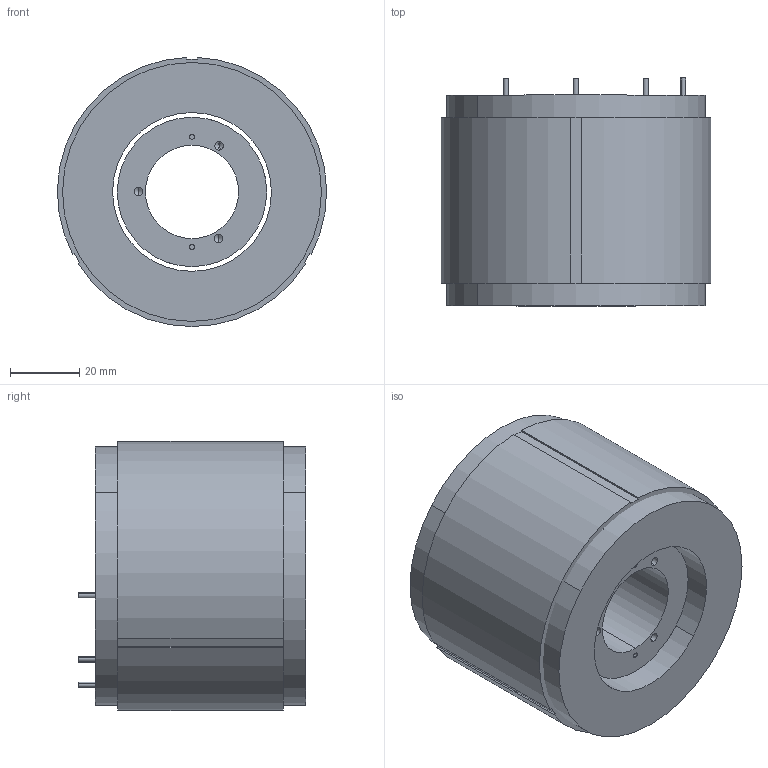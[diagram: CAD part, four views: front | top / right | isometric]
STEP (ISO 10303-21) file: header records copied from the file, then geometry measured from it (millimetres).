
FILE_DESCRIPTION (( 'STEP AP203' ), '1' );
FILE_NAME ('TMXSL78-60 KIT 3D.STEP', '2021-06-19T07:09:36', ( '' ), ( '' ), 'SwSTEP 2.0', 'SolidWorks 2021', '' );
FILE_SCHEMA (( 'CONFIG_CONTROL_DESIGN' ));
Length unit declared in the file: millimetre
Products named in the file (1): TMXSL78-60 KIT 3D
Bounding box: 77.99 x 66 x 77.97 mm (x, y, z)
Volume: 248326.1 mm3; surface area: 66735.2 mm2
Topology: 3 solids, 3 shells, 158 faces, 402 edges, 258 vertices
Faces by surface type: cylinder 87, plane 59, cone 12
Entity records: 4837 total; most frequent: DIRECTION 894, CARTESIAN_POINT 807, ORIENTED_EDGE 780, EDGE_CURVE 390, AXIS2_PLACEMENT_3D 345, VERTEX_POINT 258, LINE 204, VECTOR 204
